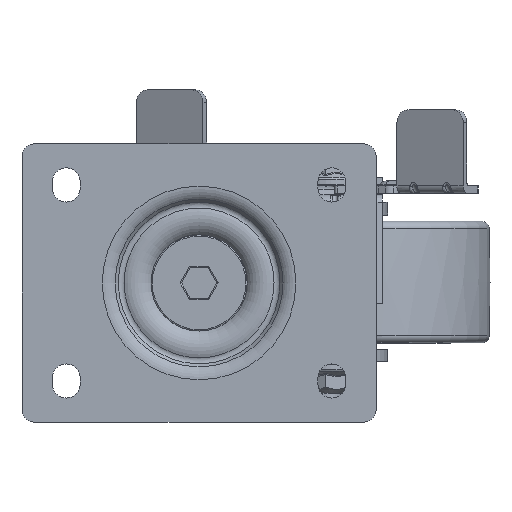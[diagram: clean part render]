
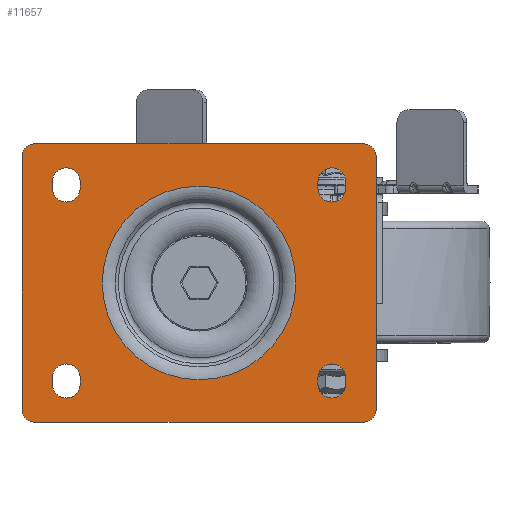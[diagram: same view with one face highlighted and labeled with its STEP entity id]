
A CAD part, top view. The second image highlights one B-rep face of the part: STEP entity #11657.
In plain terms, the highlighted planar face has unit normal (0, 0, 1).
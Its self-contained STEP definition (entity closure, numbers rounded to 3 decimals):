
#617=LINE('',#17927,#1303);
#618=LINE('',#17931,#1304);
#619=LINE('',#17935,#1305);
#620=LINE('',#17939,#1306);
#621=LINE('',#17945,#1307);
#622=LINE('',#17948,#1308);
#623=LINE('',#17953,#1309);
#624=LINE('',#17956,#1310);
#625=LINE('',#17961,#1311);
#626=LINE('',#17964,#1312);
#627=LINE('',#17969,#1313);
#628=LINE('',#17972,#1314);
#1303=VECTOR('',#14173,130.);
#1304=VECTOR('',#14176,100.);
#1305=VECTOR('',#14179,130.);
#1306=VECTOR('',#14182,100.);
#1307=VECTOR('',#14187,2.5);
#1308=VECTOR('',#14190,2.5);
#1309=VECTOR('',#14193,2.5);
#1310=VECTOR('',#14196,2.5);
#1311=VECTOR('',#14199,2.5);
#1312=VECTOR('',#14202,2.5);
#1313=VECTOR('',#14205,2.5);
#1314=VECTOR('',#14208,2.5);
#2327=FACE_BOUND('',#3200,.T.);
#2328=FACE_BOUND('',#3201,.T.);
#2329=FACE_BOUND('',#3202,.T.);
#2330=FACE_BOUND('',#3203,.T.);
#2331=FACE_BOUND('',#3204,.T.);
#2436=FACE_OUTER_BOUND('',#3199,.T.);
#3199=EDGE_LOOP('',(#7909,#7910,#7911,#7912,#7913,#7914,#7915,#7916));
#3200=EDGE_LOOP('',(#7917,#7918,#7919,#7920));
#3201=EDGE_LOOP('',(#7921,#7922,#7923,#7924));
#3202=EDGE_LOOP('',(#7925,#7926,#7927,#7928));
#3203=EDGE_LOOP('',(#7929,#7930,#7931,#7932));
#3204=EDGE_LOOP('',(#7933));
#4017=CIRCLE('',#12497,5.);
#4018=CIRCLE('',#12498,5.);
#4019=CIRCLE('',#12499,5.);
#4020=CIRCLE('',#12500,5.);
#4021=CIRCLE('',#12501,5.5);
#4022=CIRCLE('',#12502,5.5);
#4023=CIRCLE('',#12503,5.5);
#4024=CIRCLE('',#12504,5.5);
#4025=CIRCLE('',#12505,5.5);
#4026=CIRCLE('',#12506,5.5);
#4027=CIRCLE('',#12507,5.5);
#4028=CIRCLE('',#12508,5.5);
#4029=CIRCLE('',#12509,38.273);
#4786=VERTEX_POINT('',#17925);
#4787=VERTEX_POINT('',#17926);
#4788=VERTEX_POINT('',#17928);
#4789=VERTEX_POINT('',#17930);
#4790=VERTEX_POINT('',#17932);
#4791=VERTEX_POINT('',#17934);
#4792=VERTEX_POINT('',#17936);
#4793=VERTEX_POINT('',#17938);
#4794=VERTEX_POINT('',#17941);
#4795=VERTEX_POINT('',#17942);
#4796=VERTEX_POINT('',#17944);
#4797=VERTEX_POINT('',#17946);
#4798=VERTEX_POINT('',#17949);
#4799=VERTEX_POINT('',#17950);
#4800=VERTEX_POINT('',#17952);
#4801=VERTEX_POINT('',#17954);
#4802=VERTEX_POINT('',#17957);
#4803=VERTEX_POINT('',#17958);
#4804=VERTEX_POINT('',#17960);
#4805=VERTEX_POINT('',#17962);
#4806=VERTEX_POINT('',#17965);
#4807=VERTEX_POINT('',#17966);
#4808=VERTEX_POINT('',#17968);
#4809=VERTEX_POINT('',#17970);
#4810=VERTEX_POINT('',#17973);
#5968=EDGE_CURVE('',#4786,#4787,#617,.T.);
#5969=EDGE_CURVE('',#4787,#4788,#4017,.T.);
#5970=EDGE_CURVE('',#4788,#4789,#618,.T.);
#5971=EDGE_CURVE('',#4789,#4790,#4018,.T.);
#5972=EDGE_CURVE('',#4790,#4791,#619,.T.);
#5973=EDGE_CURVE('',#4791,#4792,#4019,.T.);
#5974=EDGE_CURVE('',#4792,#4793,#620,.T.);
#5975=EDGE_CURVE('',#4793,#4786,#4020,.T.);
#5976=EDGE_CURVE('',#4794,#4795,#4021,.T.);
#5977=EDGE_CURVE('',#4795,#4796,#621,.T.);
#5978=EDGE_CURVE('',#4796,#4797,#4022,.T.);
#5979=EDGE_CURVE('',#4797,#4794,#622,.T.);
#5980=EDGE_CURVE('',#4798,#4799,#4023,.T.);
#5981=EDGE_CURVE('',#4799,#4800,#623,.T.);
#5982=EDGE_CURVE('',#4800,#4801,#4024,.T.);
#5983=EDGE_CURVE('',#4801,#4798,#624,.T.);
#5984=EDGE_CURVE('',#4802,#4803,#4025,.T.);
#5985=EDGE_CURVE('',#4803,#4804,#625,.T.);
#5986=EDGE_CURVE('',#4804,#4805,#4026,.T.);
#5987=EDGE_CURVE('',#4805,#4802,#626,.T.);
#5988=EDGE_CURVE('',#4806,#4807,#4027,.T.);
#5989=EDGE_CURVE('',#4807,#4808,#627,.T.);
#5990=EDGE_CURVE('',#4808,#4809,#4028,.T.);
#5991=EDGE_CURVE('',#4809,#4806,#628,.T.);
#5992=EDGE_CURVE('',#4810,#4810,#4029,.T.);
#7909=ORIENTED_EDGE('',*,*,#5968,.T.);
#7910=ORIENTED_EDGE('',*,*,#5969,.T.);
#7911=ORIENTED_EDGE('',*,*,#5970,.T.);
#7912=ORIENTED_EDGE('',*,*,#5971,.T.);
#7913=ORIENTED_EDGE('',*,*,#5972,.T.);
#7914=ORIENTED_EDGE('',*,*,#5973,.T.);
#7915=ORIENTED_EDGE('',*,*,#5974,.T.);
#7916=ORIENTED_EDGE('',*,*,#5975,.T.);
#7917=ORIENTED_EDGE('',*,*,#5976,.T.);
#7918=ORIENTED_EDGE('',*,*,#5977,.T.);
#7919=ORIENTED_EDGE('',*,*,#5978,.T.);
#7920=ORIENTED_EDGE('',*,*,#5979,.T.);
#7921=ORIENTED_EDGE('',*,*,#5980,.T.);
#7922=ORIENTED_EDGE('',*,*,#5981,.T.);
#7923=ORIENTED_EDGE('',*,*,#5982,.T.);
#7924=ORIENTED_EDGE('',*,*,#5983,.T.);
#7925=ORIENTED_EDGE('',*,*,#5984,.T.);
#7926=ORIENTED_EDGE('',*,*,#5985,.T.);
#7927=ORIENTED_EDGE('',*,*,#5986,.T.);
#7928=ORIENTED_EDGE('',*,*,#5987,.T.);
#7929=ORIENTED_EDGE('',*,*,#5988,.T.);
#7930=ORIENTED_EDGE('',*,*,#5989,.T.);
#7931=ORIENTED_EDGE('',*,*,#5990,.T.);
#7932=ORIENTED_EDGE('',*,*,#5991,.T.);
#7933=ORIENTED_EDGE('',*,*,#5992,.F.);
#11408=PLANE('',#12496);
#11657=ADVANCED_FACE('',(#2436,#2327,#2328,#2329,#2330,#2331),#11408,.T.);
#12496=AXIS2_PLACEMENT_3D('',#17924,#14171,#14172);
#12497=AXIS2_PLACEMENT_3D('',#17929,#14174,#14175);
#12498=AXIS2_PLACEMENT_3D('',#17933,#14177,#14178);
#12499=AXIS2_PLACEMENT_3D('',#17937,#14180,#14181);
#12500=AXIS2_PLACEMENT_3D('',#17940,#14183,#14184);
#12501=AXIS2_PLACEMENT_3D('',#17943,#14185,#14186);
#12502=AXIS2_PLACEMENT_3D('',#17947,#14188,#14189);
#12503=AXIS2_PLACEMENT_3D('',#17951,#14191,#14192);
#12504=AXIS2_PLACEMENT_3D('',#17955,#14194,#14195);
#12505=AXIS2_PLACEMENT_3D('',#17959,#14197,#14198);
#12506=AXIS2_PLACEMENT_3D('',#17963,#14200,#14201);
#12507=AXIS2_PLACEMENT_3D('',#17967,#14203,#14204);
#12508=AXIS2_PLACEMENT_3D('',#17971,#14206,#14207);
#12509=AXIS2_PLACEMENT_3D('',#17974,#14209,#14210);
#14171=DIRECTION('center_axis',(0.,0.,1.));
#14172=DIRECTION('ref_axis',(0.,-1.,0.));
#14173=DIRECTION('',(-1.,0.,0.));
#14174=DIRECTION('center_axis',(0.,0.,1.));
#14175=DIRECTION('ref_axis',(1.,0.,0.));
#14176=DIRECTION('',(0.,-1.,0.));
#14177=DIRECTION('center_axis',(0.,0.,1.));
#14178=DIRECTION('ref_axis',(1.,0.,0.));
#14179=DIRECTION('',(1.,0.,0.));
#14180=DIRECTION('center_axis',(0.,0.,1.));
#14181=DIRECTION('ref_axis',(1.,0.,0.));
#14182=DIRECTION('',(0.,1.,0.));
#14183=DIRECTION('center_axis',(0.,0.,1.));
#14184=DIRECTION('ref_axis',(1.,0.,0.));
#14185=DIRECTION('center_axis',(0.,0.,-1.));
#14186=DIRECTION('ref_axis',(1.,0.,0.));
#14187=DIRECTION('',(0.,-1.,0.));
#14188=DIRECTION('center_axis',(0.,0.,-1.));
#14189=DIRECTION('ref_axis',(1.,0.,0.));
#14190=DIRECTION('',(0.,1.,0.));
#14191=DIRECTION('center_axis',(0.,0.,-1.));
#14192=DIRECTION('ref_axis',(1.,0.,0.));
#14193=DIRECTION('',(0.,1.,0.));
#14194=DIRECTION('center_axis',(0.,0.,-1.));
#14195=DIRECTION('ref_axis',(1.,0.,0.));
#14196=DIRECTION('',(0.,-1.,0.));
#14197=DIRECTION('center_axis',(0.,0.,-1.));
#14198=DIRECTION('ref_axis',(1.,0.,0.));
#14199=DIRECTION('',(0.,1.,0.));
#14200=DIRECTION('center_axis',(0.,0.,-1.));
#14201=DIRECTION('ref_axis',(1.,0.,0.));
#14202=DIRECTION('',(0.,-1.,0.));
#14203=DIRECTION('center_axis',(0.,0.,-1.));
#14204=DIRECTION('ref_axis',(1.,0.,0.));
#14205=DIRECTION('',(0.,-1.,0.));
#14206=DIRECTION('center_axis',(0.,0.,-1.));
#14207=DIRECTION('ref_axis',(1.,0.,0.));
#14208=DIRECTION('',(0.,1.,0.));
#14209=DIRECTION('center_axis',(0.,0.,1.));
#14210=DIRECTION('ref_axis',(-1.,0.,0.));
#17924=CARTESIAN_POINT('Origin',(-37.248,0.,0.));
#17925=CARTESIAN_POINT('',(65.,55.,0.));
#17926=CARTESIAN_POINT('',(-65.,55.,0.));
#17927=CARTESIAN_POINT('',(65.,55.,0.));
#17928=CARTESIAN_POINT('',(-70.,50.,0.));
#17929=CARTESIAN_POINT('Origin',(-65.,50.,0.));
#17930=CARTESIAN_POINT('',(-70.,-50.,0.));
#17931=CARTESIAN_POINT('',(-70.,50.,0.));
#17932=CARTESIAN_POINT('',(-65.,-55.,0.));
#17933=CARTESIAN_POINT('Origin',(-65.,-50.,0.));
#17934=CARTESIAN_POINT('',(65.,-55.,0.));
#17935=CARTESIAN_POINT('',(-65.,-55.,0.));
#17936=CARTESIAN_POINT('',(70.,-50.,0.));
#17937=CARTESIAN_POINT('Origin',(65.,-50.,0.));
#17938=CARTESIAN_POINT('',(70.,50.,0.));
#17939=CARTESIAN_POINT('',(70.,-50.,0.));
#17940=CARTESIAN_POINT('Origin',(65.,50.,0.));
#17941=CARTESIAN_POINT('',(-58.,40.,0.));
#17942=CARTESIAN_POINT('',(-47.,40.,0.));
#17943=CARTESIAN_POINT('Origin',(-52.5,40.,0.));
#17944=CARTESIAN_POINT('',(-47.,37.5,0.));
#17945=CARTESIAN_POINT('',(-47.,40.,0.));
#17946=CARTESIAN_POINT('',(-58.,37.5,0.));
#17947=CARTESIAN_POINT('Origin',(-52.5,37.5,0.));
#17948=CARTESIAN_POINT('',(-58.,37.5,0.));
#17949=CARTESIAN_POINT('',(58.,37.5,0.));
#17950=CARTESIAN_POINT('',(47.,37.5,0.));
#17951=CARTESIAN_POINT('Origin',(52.5,37.5,0.));
#17952=CARTESIAN_POINT('',(47.,40.,0.));
#17953=CARTESIAN_POINT('',(47.,37.5,0.));
#17954=CARTESIAN_POINT('',(58.,40.,0.));
#17955=CARTESIAN_POINT('Origin',(52.5,40.,0.));
#17956=CARTESIAN_POINT('',(58.,40.,0.));
#17957=CARTESIAN_POINT('',(58.,-40.,0.));
#17958=CARTESIAN_POINT('',(47.,-40.,0.));
#17959=CARTESIAN_POINT('Origin',(52.5,-40.,0.));
#17960=CARTESIAN_POINT('',(47.,-37.5,0.));
#17961=CARTESIAN_POINT('',(47.,-40.,0.));
#17962=CARTESIAN_POINT('',(58.,-37.5,0.));
#17963=CARTESIAN_POINT('Origin',(52.5,-37.5,0.));
#17964=CARTESIAN_POINT('',(58.,-37.5,0.));
#17965=CARTESIAN_POINT('',(-58.,-37.5,0.));
#17966=CARTESIAN_POINT('',(-47.,-37.5,0.));
#17967=CARTESIAN_POINT('Origin',(-52.5,-37.5,0.));
#17968=CARTESIAN_POINT('',(-47.,-40.,0.));
#17969=CARTESIAN_POINT('',(-47.,-37.5,0.));
#17970=CARTESIAN_POINT('',(-58.,-40.,0.));
#17971=CARTESIAN_POINT('Origin',(-52.5,-40.,0.));
#17972=CARTESIAN_POINT('',(-58.,-40.,0.));
#17973=CARTESIAN_POINT('',(0.,38.273,0.));
#17974=CARTESIAN_POINT('Origin',(0.,0.,0.));
